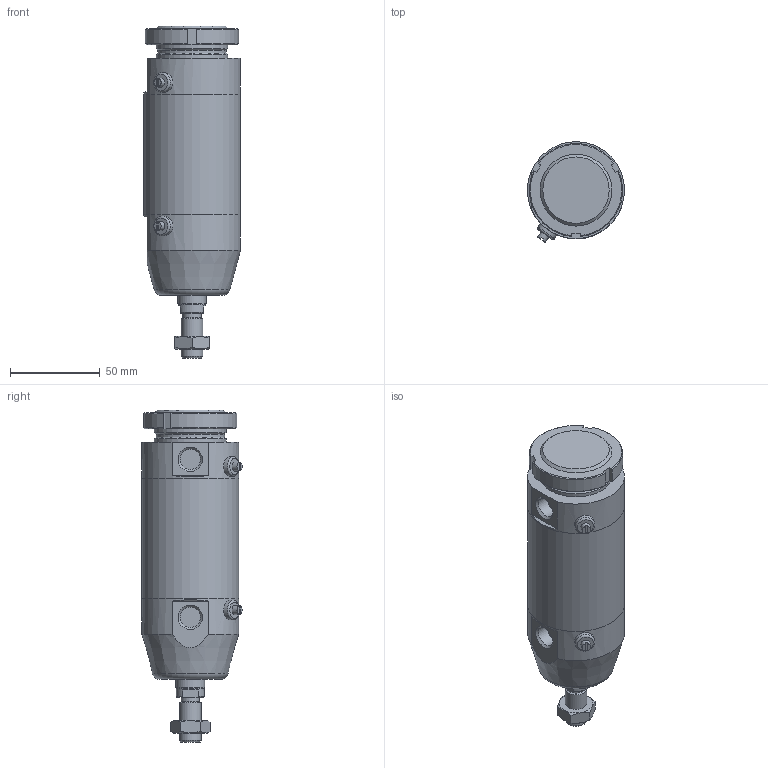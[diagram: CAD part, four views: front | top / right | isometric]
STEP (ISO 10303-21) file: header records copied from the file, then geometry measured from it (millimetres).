
FILE_DESCRIPTION(/* description */ (''),/* implementation_level */ '2;1');
FILE_NAME(/* name */ 'I:\Area Tecnica\Documenti\A-Manieri\_Inventor\12X\12X#B_###_####_#_#\12XBB_050_0025_#_#.stp',/* time_stamp */ '2015-04-28T14:28:25+02:00',/* author */ ('maniean1'),/* organization */ ('Pneumax S.p.A.'),/* preprocessor_version */ 'ST-DEVELOPER v15.2',/* originating_system */ 'Autodesk Inventor 2014',/* authorisation */ '');
FILE_SCHEMA (('AUTOMOTIVE_DESIGN { 1 0 10303 214 3 1 1 }'));
Length unit declared in the file: millimetre
Products named in the file (7): C1250_619-0025; 12X50_614; S12X50_0025; 12X_50_11; 12X50_621; G12X_050_05; 12XBB_050_0025_#_#
Bounding box: 54 x 55.88 x 185 mm (x, y, z)
Volume: 280743.3 mm3; surface area: 66807.2 mm2
Topology: 6 solids, 6 shells, 98 faces, 217 edges, 140 vertices
Faces by surface type: plane 52, cylinder 24, cone 19, torus 3
Full cylindrical faces by diameter (mm): 5 x2, 10.2 x1, 11 x2, 11.4 x2, 12 x2, 14 x1, 15.6 x1, 16 x1, 38.2 x1, 40 x3, 50 x2, 54 x3
Entity records: 2646 total; most frequent: CARTESIAN_POINT 539, DIRECTION 439, ORIENTED_EDGE 346, AXIS2_PLACEMENT_3D 186, EDGE_CURVE 173, EDGE_LOOP 150, VERTEX_POINT 131, ADVANCED_FACE 98
